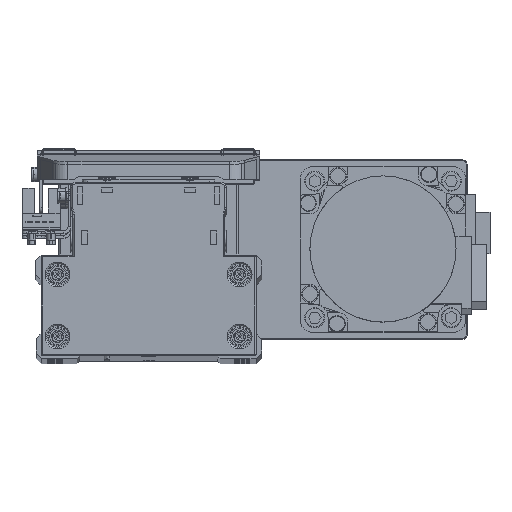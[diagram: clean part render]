
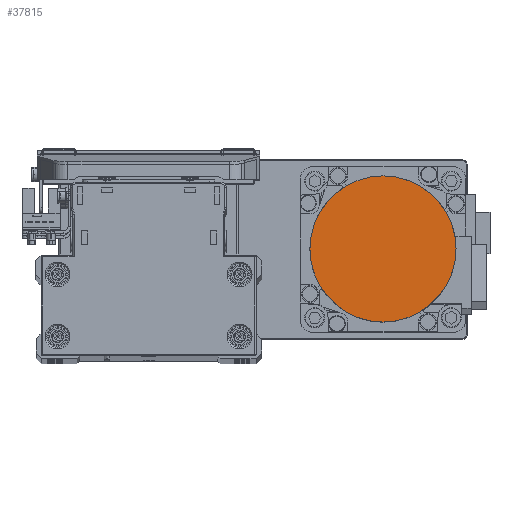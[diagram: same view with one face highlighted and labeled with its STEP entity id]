
A CAD part, top view. The second image highlights one B-rep face of the part: STEP entity #37815.
In plain terms, the highlighted planar face has unit normal (0, 0, 1) as drawn and (0, 0, -1) by its records, which use the part's own axes.
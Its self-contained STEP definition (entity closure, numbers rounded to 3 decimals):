
#3814 = CARTESIAN_POINT ( 'NONE',  ( 0., 0., -109.7 ) ) ;
#5978 = CARTESIAN_POINT ( 'NONE',  ( 0., 0., -109.7 ) ) ;
#10921 = DIRECTION ( 'NONE',  ( 0., 0., 1. ) ) ;
#11277 = CARTESIAN_POINT ( 'NONE',  ( -26.5, 0., -109.7 ) ) ;
#11587 = EDGE_LOOP ( 'NONE', ( #24221, #31060 ) ) ;
#15171 = EDGE_CURVE ( 'NONE', #30328, #29824, #20595, .T. ) ;
#16616 = DIRECTION ( 'NONE',  ( 0., 0., 1. ) ) ;
#18768 = DIRECTION ( 'NONE',  ( 0., 0., 1. ) ) ;
#19119 = AXIS2_PLACEMENT_3D ( 'NONE', #3814, #16616, #29395 ) ;
#20595 = CIRCLE ( 'NONE', #25945, 26.5 ) ;
#21924 = FACE_OUTER_BOUND ( 'NONE', #11587, .T. ) ;
#23711 = DIRECTION ( 'NONE',  ( 1., 0., 0. ) ) ;
#24221 = ORIENTED_EDGE ( 'NONE', *, *, #33670, .F. ) ;
#24741 = AXIS2_PLACEMENT_3D ( 'NONE', #5978, #18768, #31555 ) ;
#25945 = AXIS2_PLACEMENT_3D ( 'NONE', #39624, #10921, #23711 ) ;
#29395 = DIRECTION ( 'NONE',  ( -1., 0., 0. ) ) ;
#29824 = VERTEX_POINT ( 'NONE', #11277 ) ;
#30328 = VERTEX_POINT ( 'NONE', #33439 ) ;
#31060 = ORIENTED_EDGE ( 'NONE', *, *, #15171, .F. ) ;
#31555 = DIRECTION ( 'NONE',  ( 1., 0., 0. ) ) ;
#33439 = CARTESIAN_POINT ( 'NONE',  ( 26.5, 0., -109.7 ) ) ;
#33670 = EDGE_CURVE ( 'NONE', #29824, #30328, #37181, .T. ) ;
#34690 = PLANE ( 'NONE',  #24741 ) ;
#37181 = CIRCLE ( 'NONE', #19119, 26.5 ) ;
#37815 = ADVANCED_FACE ( 'NONE', ( #21924 ), #34690, .F. ) ;
#39624 = CARTESIAN_POINT ( 'NONE',  ( 0., 0., -109.7 ) ) ;
